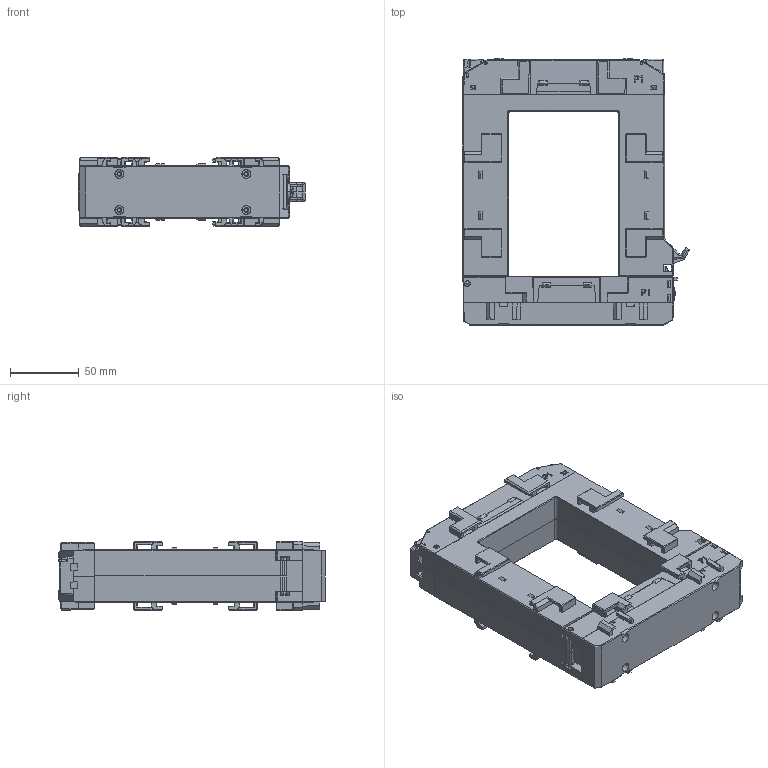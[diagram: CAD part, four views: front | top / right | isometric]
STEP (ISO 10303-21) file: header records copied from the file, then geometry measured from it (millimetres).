
FILE_DESCRIPTION (( 'STEP AP214' ), '1' );
FILE_NAME ('Push 812.STEP', '2023-03-29T15:39:03', ( '' ), ( '' ), 'SwSTEP 2.0', 'SolidWorks 2022', '' );
FILE_SCHEMA (( 'AUTOMOTIVE_DESIGN' ));
Length unit declared in the file: millimetre
Products named in the file (9): 001_TP-PUSH812_Predeterminado; 003_TP-PUSH812_Predeterminado; 006_TP-PUSH812_Predeterminado; 009_TP-PUSH816_Predeterminado; 010_TP-PUSH816_Predeterminado; 002_TP-PUSH812 v9_Predeterminado; 004_TP-PUSH812_Predeterminado; Push 812; TAPETA_TAPA CUERPO LARGO2__816_v3_1_mod-32-02-21_Predeterminado
Assembly tree (10 placements, depth 2):
  Push 812
    001_TP-PUSH812_Predeterminado
    003_TP-PUSH812_Predeterminado
    004_TP-PUSH812_Predeterminado
    006_TP-PUSH812_Predeterminado  x2
    009_TP-PUSH816_Predeterminado
    010_TP-PUSH816_Predeterminado
    TAPETA_TAPA CUERPO LARGO2__816_v3_1_mod-32-02-21_Predeterminado  x2
    002_TP-PUSH812 v9_Predeterminado
Bounding box: 164.43 x 193 x 50.2 mm (x, y, z)
Volume: 253542.9 mm3; surface area: 250688.2 mm2
Topology: 10 solids, 10 shells, 3854 faces, 10091 edges, 6273 vertices
Faces by surface type: plane 1990, cylinder 805, bspline 723, cone 276, torus 52, sphere 8
Entity records: 144865 total; most frequent: CARTESIAN_POINT 59410, ORIENTED_EDGE 17670, DIRECTION 14579, EDGE_CURVE 8835, VECTOR 5639, LINE 5639, VERTEX_POINT 5575, AXIS2_PLACEMENT_3D 4470
